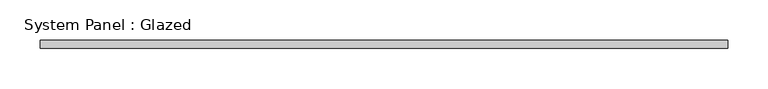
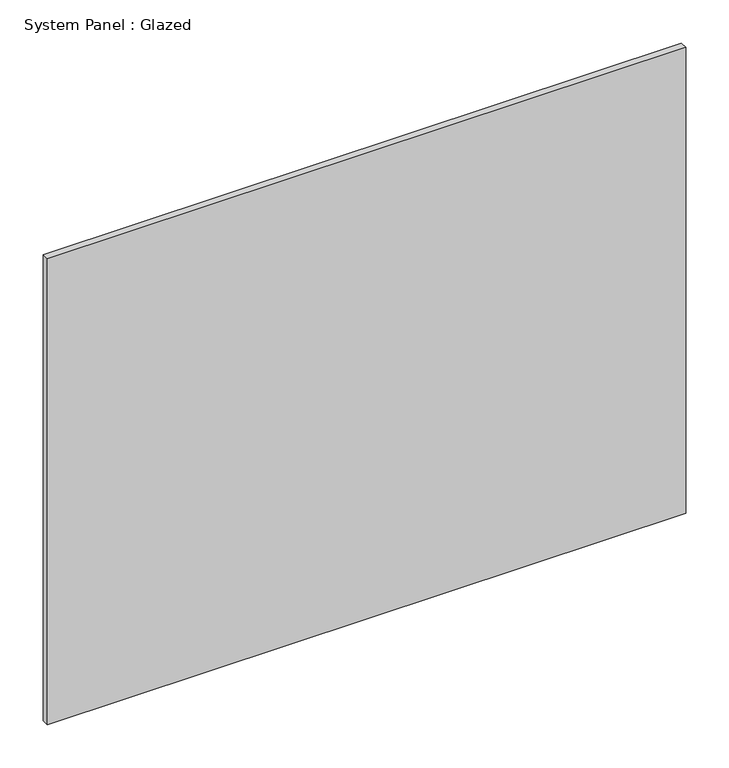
"""IFC4 building model written with IfcOpenShell, lengths in millimetres: plate geometry, System Panel : Glazed."""

from ifc_helpers import new_model, si_unit, origin, origin_with_axes, place, context, project, spatial, polyline, outline, extrude, source, transform, mapped, element, save


def system_panel_glazed_10130634(model_context):
    return source(origin(), model_context, "Body", "SweptSolid", [
        extrude(outline(polyline([(427.5, -5.0), (-427.5, -5.0), (-427.5, 5.0), (427.5, 5.0), (427.5, -5.0)])), origin_with_axes(), (0.0, 0.0, 1.0), 660.0),
    ])


if __name__ == "__main__":
    model = new_model("IFC4")
    model_context = context("Model", 3, world=origin())
    ifc_project = project(units=[si_unit("LENGTHUNIT", "METRE", prefix="MILLI")], contexts=[model_context])
    site = spatial("IfcSite", under=ifc_project)
    building = spatial("IfcBuilding", under=site)
    placement = place(None, origin())
    system_panel_glazed_shape = system_panel_glazed_10130634(model_context)
    element("IfcPlate", 1, ObjectType="System Panel : Glazed", at=placement, inside=building, context=model_context, shape_type="MappedRepresentation", body=[
        mapped(system_panel_glazed_shape, transform((0.0, 0.0, 0.0), x_axis=(1.0, 0.0, 0.0), y_axis=(0.0, 1.0, 0.0), z_axis=(0.0, 0.0, 1.0))),
    ])
    save(model, "model.ifc")
